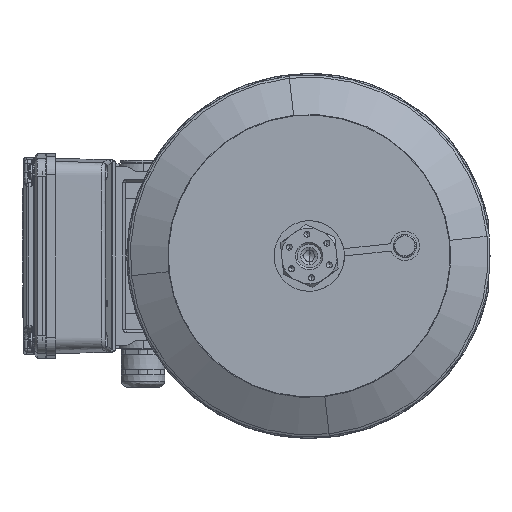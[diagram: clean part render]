
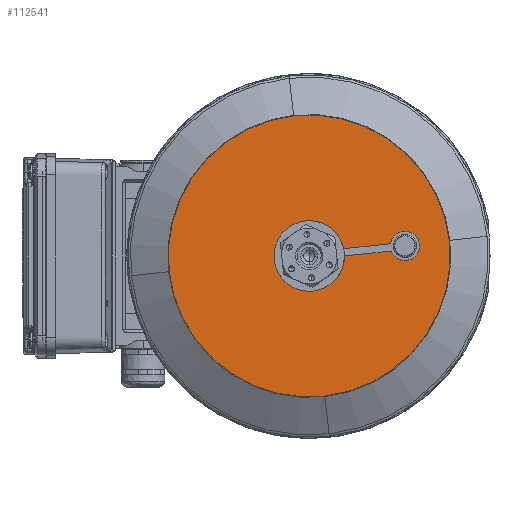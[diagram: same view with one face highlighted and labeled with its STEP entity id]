
A CAD part, left-side view. The second image highlights one B-rep face of the part: STEP entity #112541.
In plain terms, the highlighted planar face has unit normal (-1, 0, 0).
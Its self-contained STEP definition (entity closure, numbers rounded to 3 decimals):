
#7707 = ORIENTED_EDGE ( 'NONE', *, *, #148521, .F. ) ;
#10438 = DIRECTION ( 'NONE',  ( 1., 0., 0. ) ) ;
#12521 = DIRECTION ( 'NONE',  ( 0., 0.111, 0.994 ) ) ;
#17174 = PLANE ( 'NONE',  #43190 ) ;
#24275 = ORIENTED_EDGE ( 'NONE', *, *, #125706, .T. ) ;
#24936 = DIRECTION ( 'NONE',  ( 1., 0., 0. ) ) ;
#39673 = CARTESIAN_POINT ( 'NONE',  ( -275.708, -11.43, 0. ) ) ;
#40520 = FACE_BOUND ( 'NONE', #60390, .T. ) ;
#43190 = AXIS2_PLACEMENT_3D ( 'NONE', #152436, #137660, #69878 ) ;
#60302 = VERTEX_POINT ( 'NONE', #68312 ) ;
#60390 = EDGE_LOOP ( 'NONE', ( #115192, #24275 ) ) ;
#61391 = CIRCLE ( 'NONE', #126764, 77.5 ) ;
#64940 = DIRECTION ( 'NONE',  ( 0., 0.111, 0.994 ) ) ;
#65799 = CARTESIAN_POINT ( 'NONE',  ( -275.708, -11.43, 0. ) ) ;
#68312 = CARTESIAN_POINT ( 'NONE',  ( -275.708, -12.922, -13.417 ) ) ;
#69878 = DIRECTION ( 'NONE',  ( 0., -0.111, -0.994 ) ) ;
#76597 = AXIS2_PLACEMENT_3D ( 'NONE', #80387, #10438, #64940 ) ;
#76959 = CARTESIAN_POINT ( 'NONE',  ( -275.708, -9.937, 13.417 ) ) ;
#80387 = CARTESIAN_POINT ( 'NONE',  ( -275.708, -11.43, 0. ) ) ;
#93618 = DIRECTION ( 'NONE',  ( 0., 0.111, 0.994 ) ) ;
#99162 = CARTESIAN_POINT ( 'NONE',  ( -275.708, -19.998, -77.025 ) ) ;
#103567 = ORIENTED_EDGE ( 'NONE', *, *, #149393, .F. ) ;
#104148 = FACE_OUTER_BOUND ( 'NONE', #171975, .T. ) ;
#107018 = AXIS2_PLACEMENT_3D ( 'NONE', #65799, #24936, #12521 ) ;
#109057 = CIRCLE ( 'NONE', #107018, 13.5 ) ;
#112541 = ADVANCED_FACE ( 'NONE', ( #104148, #40520 ), #17174, .T. ) ;
#115192 = ORIENTED_EDGE ( 'NONE', *, *, #115216, .T. ) ;
#115216 = EDGE_CURVE ( 'NONE', #158454, #60302, #121052, .T. ) ;
#121052 = CIRCLE ( 'NONE', #76597, 13.5 ) ;
#124662 = DIRECTION ( 'NONE',  ( 1., 0., 0. ) ) ;
#125706 = EDGE_CURVE ( 'NONE', #60302, #158454, #109057, .T. ) ;
#126764 = AXIS2_PLACEMENT_3D ( 'NONE', #39673, #132267, #93618 ) ;
#128400 = VERTEX_POINT ( 'NONE', #99162 ) ;
#130244 = CARTESIAN_POINT ( 'NONE',  ( -275.708, -2.862, 77.025 ) ) ;
#132267 = DIRECTION ( 'NONE',  ( 1., 0., 0. ) ) ;
#134328 = VERTEX_POINT ( 'NONE', #130244 ) ;
#137660 = DIRECTION ( 'NONE',  ( -1., 0., 0. ) ) ;
#139361 = CARTESIAN_POINT ( 'NONE',  ( -275.708, -11.43, 0. ) ) ;
#148521 = EDGE_CURVE ( 'NONE', #134328, #128400, #168189, .T. ) ;
#149393 = EDGE_CURVE ( 'NONE', #128400, #134328, #61391, .T. ) ;
#152436 = CARTESIAN_POINT ( 'NONE',  ( -275.708, 1.987, -1.493 ) ) ;
#158454 = VERTEX_POINT ( 'NONE', #76959 ) ;
#159395 = AXIS2_PLACEMENT_3D ( 'NONE', #139361, #124662, #164269 ) ;
#164269 = DIRECTION ( 'NONE',  ( 0., 0.111, 0.994 ) ) ;
#168189 = CIRCLE ( 'NONE', #159395, 77.5 ) ;
#171975 = EDGE_LOOP ( 'NONE', ( #7707, #103567 ) ) ;
